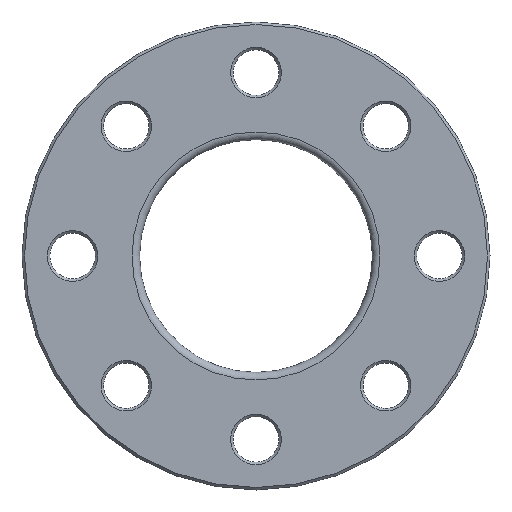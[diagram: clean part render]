
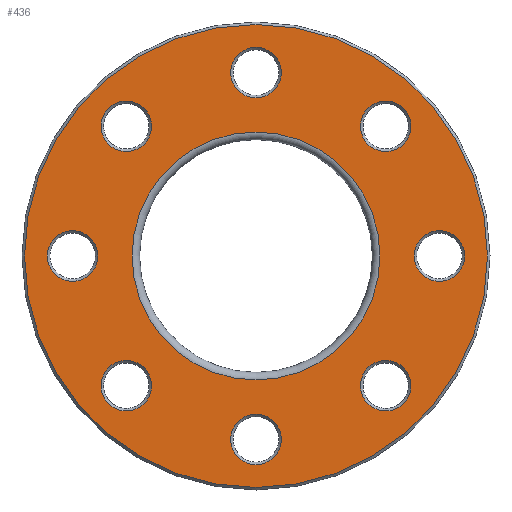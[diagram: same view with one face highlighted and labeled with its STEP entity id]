
A CAD part, front view. The second image highlights one B-rep face of the part: STEP entity #436.
In plain terms, the highlighted planar face has unit normal (0, -1, 0).
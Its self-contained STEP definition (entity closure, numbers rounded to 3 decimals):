
#23=PLANE('',#516);
#98=ORIENTED_EDGE('',*,*,#157,.T.);
#99=ORIENTED_EDGE('',*,*,#158,.T.);
#100=ORIENTED_EDGE('',*,*,#124,.T.);
#101=ORIENTED_EDGE('',*,*,#128,.T.);
#102=ORIENTED_EDGE('',*,*,#132,.T.);
#103=ORIENTED_EDGE('',*,*,#136,.T.);
#104=ORIENTED_EDGE('',*,*,#140,.T.);
#105=ORIENTED_EDGE('',*,*,#144,.T.);
#106=ORIENTED_EDGE('',*,*,#148,.T.);
#107=ORIENTED_EDGE('',*,*,#159,.T.);
#124=EDGE_CURVE('',#164,#164,#204,.T.);
#128=EDGE_CURVE('',#168,#168,#208,.T.);
#132=EDGE_CURVE('',#172,#172,#212,.T.);
#136=EDGE_CURVE('',#176,#176,#216,.T.);
#140=EDGE_CURVE('',#180,#180,#220,.T.);
#144=EDGE_CURVE('',#184,#184,#224,.T.);
#148=EDGE_CURVE('',#188,#188,#228,.T.);
#157=EDGE_CURVE('',#197,#197,#237,.F.);
#158=EDGE_CURVE('',#198,#198,#238,.T.);
#159=EDGE_CURVE('',#199,#199,#239,.T.);
#164=VERTEX_POINT('',#683);
#168=VERTEX_POINT('',#694);
#172=VERTEX_POINT('',#705);
#176=VERTEX_POINT('',#716);
#180=VERTEX_POINT('',#727);
#184=VERTEX_POINT('',#738);
#188=VERTEX_POINT('',#749);
#197=VERTEX_POINT('',#772);
#198=VERTEX_POINT('',#774);
#199=VERTEX_POINT('',#776);
#204=CIRCLE('',#461,10.);
#208=CIRCLE('',#468,10.);
#212=CIRCLE('',#475,10.);
#216=CIRCLE('',#482,10.);
#220=CIRCLE('',#489,10.);
#224=CIRCLE('',#496,10.);
#228=CIRCLE('',#503,10.);
#237=CIRCLE('',#517,91.5);
#238=CIRCLE('',#518,49.);
#239=CIRCLE('',#519,10.);
#298=EDGE_LOOP('',(#98));
#299=EDGE_LOOP('',(#99));
#300=EDGE_LOOP('',(#100));
#301=EDGE_LOOP('',(#101));
#302=EDGE_LOOP('',(#102));
#303=EDGE_LOOP('',(#103));
#304=EDGE_LOOP('',(#104));
#305=EDGE_LOOP('',(#105));
#306=EDGE_LOOP('',(#106));
#307=EDGE_LOOP('',(#107));
#378=FACE_BOUND('',#298,.T.);
#379=FACE_BOUND('',#299,.T.);
#380=FACE_BOUND('',#300,.T.);
#381=FACE_BOUND('',#301,.T.);
#382=FACE_BOUND('',#302,.T.);
#383=FACE_BOUND('',#303,.T.);
#384=FACE_BOUND('',#304,.T.);
#385=FACE_BOUND('',#305,.T.);
#386=FACE_BOUND('',#306,.T.);
#387=FACE_BOUND('',#307,.T.);
#436=ADVANCED_FACE('',(#378,#379,#380,#381,#382,#383,#384,#385,#386,#387),
#23,.F.);
#461=AXIS2_PLACEMENT_3D('',#682,#539,#540);
#468=AXIS2_PLACEMENT_3D('',#693,#553,#554);
#475=AXIS2_PLACEMENT_3D('',#704,#567,#568);
#482=AXIS2_PLACEMENT_3D('',#715,#581,#582);
#489=AXIS2_PLACEMENT_3D('',#726,#595,#596);
#496=AXIS2_PLACEMENT_3D('',#737,#609,#610);
#503=AXIS2_PLACEMENT_3D('',#748,#623,#624);
#516=AXIS2_PLACEMENT_3D('',#770,#649,#650);
#517=AXIS2_PLACEMENT_3D('',#771,#651,#652);
#518=AXIS2_PLACEMENT_3D('',#773,#653,#654);
#519=AXIS2_PLACEMENT_3D('',#775,#655,#656);
#539=DIRECTION('',(0.,1.,0.));
#540=DIRECTION('',(0.707,0.,0.707));
#553=DIRECTION('',(0.,1.,0.));
#554=DIRECTION('',(0.,0.,1.));
#567=DIRECTION('',(0.,1.,0.));
#568=DIRECTION('',(-0.707,0.,0.707));
#581=DIRECTION('',(0.,1.,0.));
#582=DIRECTION('',(-1.,0.,0.));
#595=DIRECTION('',(0.,1.,0.));
#596=DIRECTION('',(-0.707,0.,-0.707));
#609=DIRECTION('',(0.,1.,0.));
#610=DIRECTION('',(0.,0.,-1.));
#623=DIRECTION('',(0.,1.,0.));
#624=DIRECTION('',(0.707,0.,-0.707));
#649=DIRECTION('',(0.,1.,0.));
#650=DIRECTION('',(0.,0.,1.));
#651=DIRECTION('',(0.,1.,0.));
#652=DIRECTION('',(0.,0.,1.));
#653=DIRECTION('',(0.,1.,0.));
#654=DIRECTION('',(0.,0.,1.));
#655=DIRECTION('',(0.,1.,0.));
#656=DIRECTION('',(1.,0.,0.));
#682=CARTESIAN_POINT('',(-51.265,0.,51.265));
#683=CARTESIAN_POINT('',(-44.194,0.,58.336));
#693=CARTESIAN_POINT('',(-72.5,0.,0.));
#694=CARTESIAN_POINT('',(-72.5,0.,10.));
#704=CARTESIAN_POINT('',(-51.265,0.,-51.265));
#705=CARTESIAN_POINT('',(-58.336,0.,-44.194));
#715=CARTESIAN_POINT('',(0.,0.,-72.5));
#716=CARTESIAN_POINT('',(-10.,0.,-72.5));
#726=CARTESIAN_POINT('',(51.265,0.,-51.265));
#727=CARTESIAN_POINT('',(44.194,0.,-58.336));
#737=CARTESIAN_POINT('',(72.5,0.,0.));
#738=CARTESIAN_POINT('',(72.5,0.,-10.));
#748=CARTESIAN_POINT('',(51.265,0.,51.265));
#749=CARTESIAN_POINT('',(58.336,0.,44.194));
#770=CARTESIAN_POINT('',(0.,0.,0.));
#771=CARTESIAN_POINT('',(0.,0.,0.));
#772=CARTESIAN_POINT('',(0.,0.,91.5));
#773=CARTESIAN_POINT('',(0.,0.,0.));
#774=CARTESIAN_POINT('',(0.,0.,49.));
#775=CARTESIAN_POINT('',(0.,0.,72.5));
#776=CARTESIAN_POINT('',(10.,0.,72.5));
